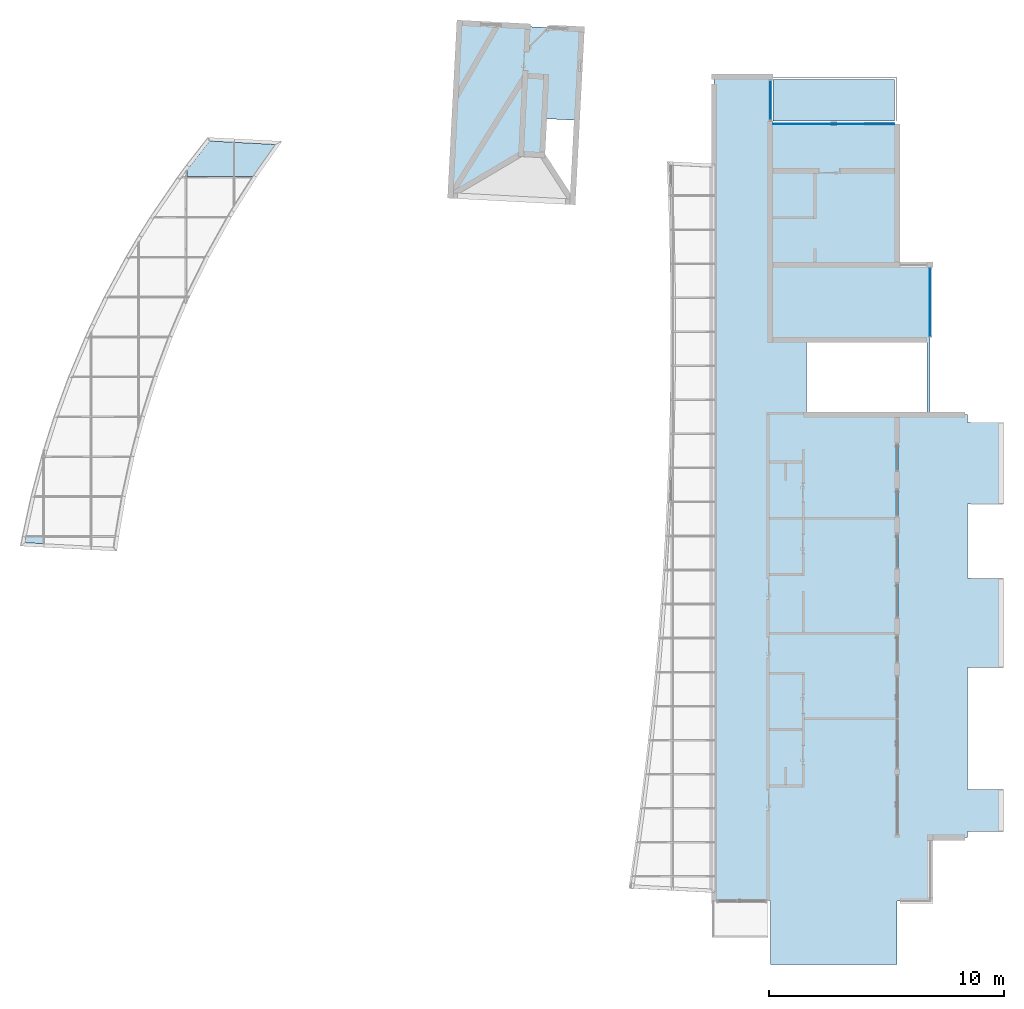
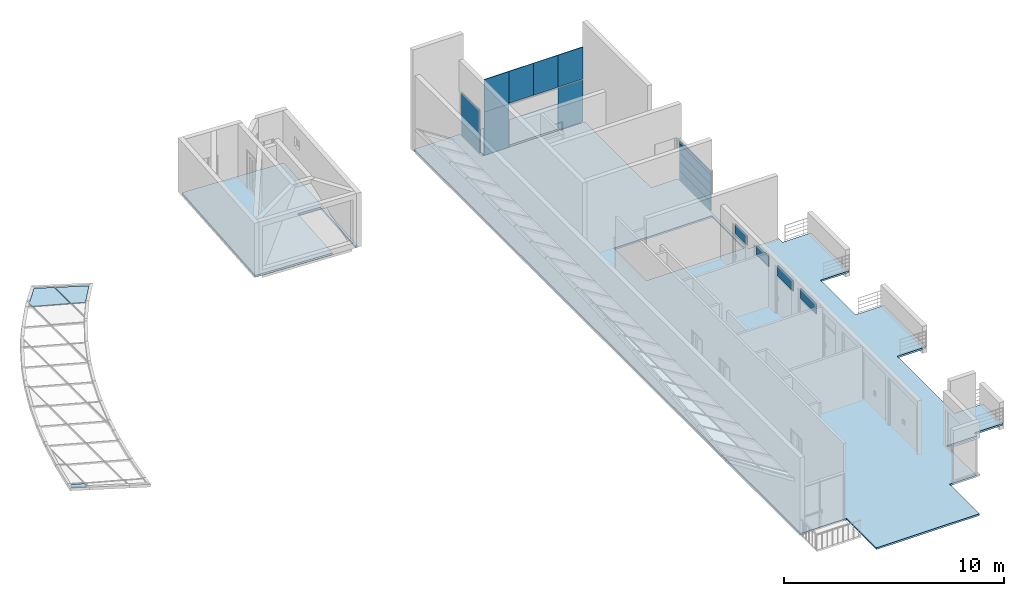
# One storey, part 16 of 33: 19 plates, 3 slabs, 1 opening, 9 elements without a shape of their own.
"""IFC2X3 building model written with IfcOpenShell, lengths in millimetres."""

from ifc_helpers import new_model, entity, si_unit, converted_unit, derived_unit, direction, frame, frame_2d, origin, origin_2d_with_axis, place, context, subcontext, project, spatial, polyline, rectangle, outline, extrude, source, transform, mapped, material, layer, layer_set, layer_usage, type_object, type_shapes, element, aggregate, save


model = new_model("IFC2X3")

# Units and contexts
model_context = context("Model", 3, precision=0.01, world=origin(), true_north=direction((6.12303176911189e-17, 1.0)))
body_context = subcontext(model_context, "Body", "Model", "MODEL_VIEW")
ifc_project = project(units=[si_unit("LENGTHUNIT", "METRE", prefix="MILLI"), si_unit("AREAUNIT", "SQUARE_METRE"), si_unit("VOLUMEUNIT", "CUBIC_METRE"), converted_unit("PLANEANGLEUNIT", "DEGREE", entity("IfcRatioMeasure", 0.0174532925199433), si_unit("PLANEANGLEUNIT", "RADIAN"), dimensions=[0, 0, 0, 0, 0, 0, 0]), si_unit("MASSUNIT", "GRAM", prefix="KILO"), derived_unit("MASSDENSITYUNIT", [(si_unit("MASSUNIT", "GRAM", prefix="KILO"), 1), (si_unit("LENGTHUNIT", "METRE"), -3)]), si_unit("TIMEUNIT", "SECOND"), si_unit("FREQUENCYUNIT", "HERTZ"), si_unit("THERMODYNAMICTEMPERATUREUNIT", "DEGREE_CELSIUS"), derived_unit("THERMALTRANSMITTANCEUNIT", [(si_unit("MASSUNIT", "GRAM", prefix="KILO"), 1), (si_unit("THERMODYNAMICTEMPERATUREUNIT", "KELVIN"), -1), (si_unit("TIMEUNIT", "SECOND"), -3)]), derived_unit("VOLUMETRICFLOWRATEUNIT", [(si_unit("LENGTHUNIT", "METRE"), 3), (si_unit("TIMEUNIT", "SECOND"), -1)]), si_unit("ELECTRICCURRENTUNIT", "AMPERE"), si_unit("ELECTRICVOLTAGEUNIT", "VOLT"), si_unit("POWERUNIT", "WATT"), si_unit("FORCEUNIT", "NEWTON", prefix="KILO"), si_unit("ILLUMINANCEUNIT", "LUX"), si_unit("LUMINOUSFLUXUNIT", "LUMEN"), si_unit("LUMINOUSINTENSITYUNIT", "CANDELA"), derived_unit("USERDEFINED", [(si_unit("MASSUNIT", "GRAM", prefix="KILO"), -1), (si_unit("LENGTHUNIT", "METRE"), -2), (si_unit("TIMEUNIT", "SECOND"), 3), (si_unit("LUMINOUSFLUXUNIT", "LUMEN"), 1)]), derived_unit("LINEARVELOCITYUNIT", [(si_unit("LENGTHUNIT", "METRE"), 1), (si_unit("TIMEUNIT", "SECOND"), -1)]), si_unit("PRESSUREUNIT", "PASCAL"), derived_unit("USERDEFINED", [(si_unit("LENGTHUNIT", "METRE"), -2), (si_unit("MASSUNIT", "GRAM", prefix="KILO"), 1), (si_unit("TIMEUNIT", "SECOND"), -2)])], contexts=[model_context])

# Site, building, storey
site_placement = place(None, origin())
site = spatial("IfcSite", under=ifc_project, at=site_placement, Name="表面", CompositionType="ELEMENT")
building_placement = place(site_placement, origin())
building = spatial("IfcBuilding", under=site, at=building_placement, CompositionType="ELEMENT")
storey_placement = place(building_placement, frame((0.0, 0.0, 6000.0)))
storey = spatial("IfcBuildingStorey", under=building, at=storey_placement, Name="3F", CompositionType="ELEMENT", Elevation=6000.00000000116)

# Curtain wall, plates
curtain_wall_type_1 = type_object("IfcCurtainWallType", Name="幕墙系统:1700 x 2100mm", PredefinedType="NOTDEFINED")
curtain_wall_1_placement = place(storey_placement, frame((0.0, 0.0, -6000.0)))
curtain_wall_1 = element("IfcCurtainWall", 1, at=curtain_wall_1_placement, inside=storey, type_object=curtain_wall_type_1, Name="幕墙系统:1700 x 2100mm", ObjectType="幕墙系统:1700 x 2100mm")
ifc_material_1 = material(Name="<Unnamed>")
ifc_layer_1 = layer(ifc_material_1, 30.0)
ifc_layer_set_1 = layer_set([ifc_layer_1], Name="幕墙系统:1450 x 2100mm")
ifc_layer_usage_1 = layer_usage(ifc_layer_set_1, "AXIS3", "POSITIVE", 0.0)
plate_type_1 = type_object("IfcPlateType", Name="玻璃", PredefinedType="CURTAIN_PANEL", material=ifc_layer_set_1)
shared_shape_1 = source(origin(), body_context, "Body", "SweptSolid", [
    extrude(outline(polyline([(-1111.20711069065, -721.859514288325), (680.986555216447, -721.859514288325), (606.898578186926, 741.692632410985), (-176.678022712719, 702.026396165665), (-1111.20711069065, -721.859514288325)])), frame((22.6521137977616, -15.0, 1146.28131827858), z_axis=(0.0, 1.0, 0.0), x_axis=(-0.050557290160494, 0.0, 0.998721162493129)), (0.0, 0.0, 1.0), 30.0),
])
type_shapes(plate_type_1, [shared_shape_1])
plate_1_placement = place(curtain_wall_1_placement, frame((-33129.0544018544, 2163.34040740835, 6712.73015009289), z_axis=(-0.965925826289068, 0.0, 0.258819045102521), x_axis=(0.0, -1.0, 0.0)))
plate_1 = element("IfcPlate", 2, at=plate_1_placement, type_object=plate_type_1, material=ifc_layer_usage_1, Name="系统嵌板:玻璃", ObjectType="玻璃", context=body_context, shape_type="MappedRepresentation", body=[
    mapped(shared_shape_1, transform((0.0, 0.0, 0.0), scale=1.0)),
])
ifc_layer_usage_2 = layer_usage(ifc_layer_set_1, "AXIS3", "POSITIVE", 0.0)
plate_type_2 = type_object("IfcPlateType", Name="玻璃", PredefinedType="CURTAIN_PANEL", material=ifc_layer_set_1)
shared_shape_2 = source(origin(), body_context, "Body", "SweptSolid", [
    extrude(outline(polyline([(-1142.52853531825, -878.224020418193), (-86.7572463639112, -878.224020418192), (759.565375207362, 283.344388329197), (855.830979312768, 193.749226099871), (830.633905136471, 691.498435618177), (-1216.74447797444, 587.855990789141), (-1142.52853531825, -878.224020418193)])), frame((112.047590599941, -15.0, 1185.46805360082), z_axis=(0.0, 1.0, 0.0), x_axis=(-0.0505572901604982, 0.0, 0.998721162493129)), (0.0, 0.0, 1.0), 30.0),
])
type_shapes(plate_type_2, [shared_shape_2])
plate_2_placement = place(curtain_wall_1_placement, frame((-34906.2630117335, 2191.29442579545, 7188.93176189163), z_axis=(-0.965925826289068, 0.0, 0.258819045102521), x_axis=(0.0, -1.0, 0.0)))
plate_2 = element("IfcPlate", 3, at=plate_2_placement, type_object=plate_type_2, material=ifc_layer_usage_2, Name="系统嵌板:玻璃", ObjectType="玻璃", context=body_context, shape_type="MappedRepresentation", body=[
    mapped(shared_shape_2, transform((0.0, 0.0, 0.0), scale=1.0)),
])
ifc_layer_usage_3 = layer_usage(ifc_layer_set_1, "AXIS3", "POSITIVE", 0.0)
plate_type_3 = type_object("IfcPlateType", Name="玻璃", PredefinedType="CURTAIN_PANEL", material=ifc_layer_set_1)
shared_shape_3 = source(origin(), body_context, "Body", "SweptSolid", [
    extrude(outline(polyline([(-394.046548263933, -130.161596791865), (370.710211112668, -130.161596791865), (417.382885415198, 109.62349523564), (-394.046548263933, 150.69969834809), (-394.046548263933, -130.161596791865)])), frame((-10.2690507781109, -15.0, 394.046548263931), z_axis=(0.0, 1.0, 0.0), x_axis=(0.0, 0.0, 1.0)), (0.0, 0.0, 1.0), 30.0),
])
type_shapes(plate_type_3, [shared_shape_3])
plate_3_placement = place(curtain_wall_1_placement, frame((-43020.0399525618, -14059.8033344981, 9363.0117407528), z_axis=(-0.965925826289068, 0.0, 0.258819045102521), x_axis=(0.0, -1.0, 0.0)))
plate_3 = element("IfcPlate", 4, at=plate_3_placement, type_object=plate_type_3, material=ifc_layer_usage_3, Name="系统嵌板:玻璃", ObjectType="玻璃", context=body_context, shape_type="MappedRepresentation", body=[
    mapped(shared_shape_3, transform((0.0, 0.0, 0.0), scale=1.0)),
])
aggregate(curtain_wall_1, [plate_1, plate_2, plate_3])

# Curtain wall, plate
curtain_wall_type_2 = type_object("IfcCurtainWallType", Name="幕墙:幕墙 2", PredefinedType="NOTDEFINED")
curtain_wall_2_placement = place(storey_placement, frame((0.0, 0.0, -6000.0)))
curtain_wall_2 = element("IfcCurtainWall", 5, at=curtain_wall_2_placement, inside=storey, type_object=curtain_wall_type_2, Name="幕墙:幕墙 2", ObjectType="幕墙:幕墙 2")
ifc_layer_usage_4 = layer_usage(ifc_layer_set_1, "AXIS3", "POSITIVE", 0.0)
plate_type_4 = type_object("IfcPlateType", Name="玻璃", PredefinedType="CURTAIN_PANEL", material=ifc_layer_set_1)
shared_shape_4 = source(origin(), body_context, "Body", "SweptSolid", [
    extrude(rectangle(XDim=30.0, YDim=1660.0, at=origin_2d_with_axis()), frame((0.0, 0.0, 0.0), z_axis=(0.0, 0.0, 1.0), x_axis=(0.0, 1.0, 0.0)), (0.0, 0.0, 1.0), 2400.0),
])
type_shapes(plate_type_4, [shared_shape_4])
plate_4_placement = place(curtain_wall_2_placement, frame((-12030.2499126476, 4683.13157334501, 6050.0), z_axis=(0.0, 0.0, 1.0), x_axis=(0.0, -1.0, 0.0)))
plate_4 = element("IfcPlate", 6, at=plate_4_placement, type_object=plate_type_4, material=ifc_layer_usage_4, Name="系统嵌板:玻璃", ObjectType="玻璃", context=body_context, shape_type="MappedRepresentation", body=[
    mapped(shared_shape_4, transform((0.0, 0.0, 0.0), scale=1.0)),
])
aggregate(curtain_wall_2, [plate_4])

# Curtain wall, plates
curtain_wall_type_3 = type_object("IfcCurtainWallType", Name="幕墙:店面", PredefinedType="NOTDEFINED")
curtain_wall_3_placement = place(storey_placement, frame((0.0, 0.0, -6000.0)))
curtain_wall_3 = element("IfcCurtainWall", 7, at=curtain_wall_3_placement, inside=storey, type_object=curtain_wall_type_3, Name="幕墙:店面", ObjectType="幕墙:店面")
ifc_layer_usage_5 = layer_usage(ifc_layer_set_1, "AXIS3", "POSITIVE", 0.0)
plate_type_5 = type_object("IfcPlateType", Name="玻璃", PredefinedType="CURTAIN_PANEL", material=ifc_layer_set_1)
shared_shape_5 = source(origin(), body_context, "Body", "SweptSolid", [
    extrude(rectangle(XDim=30.0, YDim=1290.00000000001, at=origin_2d_with_axis()), frame((0.0, 0.0, 0.0), z_axis=(0.0, 0.0, 1.0), x_axis=(0.0, 1.0, 0.0)), (0.0, 0.0, 1.0), 2400.0),
])
type_shapes(plate_type_5, [shared_shape_5])
plate_5_placement = place(curtain_wall_3_placement, frame((-11265.2499126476, 3683.13157334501, 6000.0)))
plate_5 = element("IfcPlate", 8, at=plate_5_placement, type_object=plate_type_5, material=ifc_layer_usage_5, Name="系统嵌板:玻璃", ObjectType="玻璃", context=body_context, shape_type="MappedRepresentation", body=[
    mapped(shared_shape_5, transform((0.0, 0.0, 0.0), scale=1.0)),
])
ifc_layer_usage_6 = layer_usage(ifc_layer_set_1, "AXIS3", "POSITIVE", 0.0)
plate_type_6 = type_object("IfcPlateType", Name="玻璃", PredefinedType="CURTAIN_PANEL", material=ifc_layer_set_1)
shared_shape_6 = source(origin(), body_context, "Body", "SweptSolid", [
    extrude(rectangle(XDim=30.0, YDim=1290.00000000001, at=origin_2d_with_axis()), frame((0.0, 0.0, 0.0), z_axis=(0.0, 0.0, 1.0), x_axis=(0.0, 1.0, 0.0)), (0.0, 0.0, 1.0), 2325.0),
])
type_shapes(plate_type_6, [shared_shape_6])
plate_6_placement = place(curtain_wall_3_placement, frame((-7395.24991264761, 3683.131573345, 6050.0)))
plate_6 = element("IfcPlate", 9, at=plate_6_placement, type_object=plate_type_6, material=ifc_layer_usage_6, Name="系统嵌板:玻璃", ObjectType="玻璃", context=body_context, shape_type="MappedRepresentation", body=[
    mapped(shared_shape_6, transform((0.0, 0.0, 0.0), scale=1.0)),
])
ifc_layer_usage_7 = layer_usage(ifc_layer_set_1, "AXIS3", "POSITIVE", 0.0)
plate_type_7 = type_object("IfcPlateType", Name="玻璃", PredefinedType="CURTAIN_PANEL", material=ifc_layer_set_1)
shared_shape_7 = source(origin(), body_context, "Body", "SweptSolid", [
    extrude(rectangle(XDim=30.0, YDim=1290.00000000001, at=origin_2d_with_axis()), frame((0.0, 0.0, 0.0), z_axis=(0.0, 0.0, 1.0), x_axis=(0.0, 1.0, 0.0)), (0.0, 0.0, 1.0), 1800.0),
])
type_shapes(plate_type_7, [shared_shape_7])
plate_7_placement = place(curtain_wall_3_placement, frame((-11265.2499126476, 3683.13157334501, 8400.0)))
plate_7 = element("IfcPlate", 10, at=plate_7_placement, type_object=plate_type_7, material=ifc_layer_usage_7, Name="系统嵌板:玻璃", ObjectType="玻璃", context=body_context, shape_type="MappedRepresentation", body=[
    mapped(shared_shape_7, transform((0.0, 0.0, 0.0), scale=1.0)),
])
ifc_layer_usage_8 = layer_usage(ifc_layer_set_1, "AXIS3", "POSITIVE", 0.0)
plate_type_8 = type_object("IfcPlateType", Name="玻璃", PredefinedType="CURTAIN_PANEL", material=ifc_layer_set_1)
shared_shape_8 = source(origin(), body_context, "Body", "SweptSolid", [
    extrude(rectangle(XDim=30.0, YDim=1290.00000000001, at=origin_2d_with_axis()), frame((0.0, 0.0, 0.0), z_axis=(0.0, 0.0, 1.0), x_axis=(0.0, 1.0, 0.0)), (0.0, 0.0, 1.0), 1775.0),
])
type_shapes(plate_type_8, [shared_shape_8])
plate_8_placement = place(curtain_wall_3_placement, frame((-9975.24991264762, 3683.13157334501, 8425.0)))
plate_8 = element("IfcPlate", 11, at=plate_8_placement, type_object=plate_type_8, material=ifc_layer_usage_8, Name="系统嵌板:玻璃", ObjectType="玻璃", context=body_context, shape_type="MappedRepresentation", body=[
    mapped(shared_shape_8, transform((0.0, 0.0, 0.0), scale=1.0)),
])
ifc_layer_usage_9 = layer_usage(ifc_layer_set_1, "AXIS3", "POSITIVE", 0.0)
plate_9_placement = place(curtain_wall_3_placement, frame((-8685.24991264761, 3683.131573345, 8425.0)))
plate_9 = element("IfcPlate", 12, at=plate_9_placement, type_object=plate_type_8, material=ifc_layer_usage_9, Name="系统嵌板:玻璃", ObjectType="玻璃", context=body_context, shape_type="MappedRepresentation", body=[
    mapped(shared_shape_8, transform((0.0, 0.0, 0.0), scale=1.0)),
])
ifc_layer_usage_10 = layer_usage(ifc_layer_set_1, "AXIS3", "POSITIVE", 0.0)
plate_10_placement = place(curtain_wall_3_placement, frame((-7395.24991264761, 3683.131573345, 8425.0)))
plate_10 = element("IfcPlate", 13, at=plate_10_placement, type_object=plate_type_8, material=ifc_layer_usage_10, Name="系统嵌板:玻璃", ObjectType="玻璃", context=body_context, shape_type="MappedRepresentation", body=[
    mapped(shared_shape_8, transform((0.0, 0.0, 0.0), scale=1.0)),
])
aggregate(curtain_wall_3, [plate_5, plate_6, plate_7, plate_8, plate_9, plate_10])

curtain_wall_type_4 = type_object("IfcCurtainWallType", Name="幕墙:幕墙 1", PredefinedType="NOTDEFINED")
curtain_wall_4_placement = place(storey_placement, frame((0.0, 0.0, -6000.0)))
curtain_wall_4 = element("IfcCurtainWall", 14, at=curtain_wall_4_placement, inside=storey, type_object=curtain_wall_type_4, Name="幕墙:幕墙 1", ObjectType="幕墙:幕墙 1")
ifc_layer_usage_11 = layer_usage(ifc_layer_set_1, "AXIS3", "POSITIVE", 0.0)
plate_type_9 = type_object("IfcPlateType", Name="玻璃", PredefinedType="CURTAIN_PANEL", material=ifc_layer_set_1)
shared_shape_9 = source(origin(), body_context, "Body", "SweptSolid", [
    extrude(rectangle(XDim=30.0, YDim=2860.0, at=origin_2d_with_axis()), frame((0.0, 0.0, 0.0), z_axis=(0.0, 0.0, 1.0), x_axis=(0.0, 1.0, 0.0)), (0.0, 0.0, 1.0), 500.000000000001),
])
type_shapes(plate_type_9, [shared_shape_9])
plate_11_placement = place(curtain_wall_4_placement, frame((-5230.24991264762, -3916.868426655, 6050.0), z_axis=(0.0, 0.0, 1.0), x_axis=(0.0, -1.0, 0.0)))
plate_11 = element("IfcPlate", 15, at=plate_11_placement, type_object=plate_type_9, material=ifc_layer_usage_11, Name="系统嵌板:玻璃", ObjectType="玻璃", context=body_context, shape_type="MappedRepresentation", body=[
    mapped(shared_shape_9, transform((0.0, 0.0, 0.0), scale=1.0)),
])
ifc_layer_usage_12 = layer_usage(ifc_layer_set_1, "AXIS3", "POSITIVE", 0.0)
plate_12_placement = place(curtain_wall_4_placement, frame((-5230.24991264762, -3916.868426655, 6550.0), z_axis=(0.0, 0.0, 1.0), x_axis=(0.0, -1.0, 0.0)))
plate_12 = element("IfcPlate", 16, at=plate_12_placement, type_object=plate_type_9, material=ifc_layer_usage_12, Name="系统嵌板:玻璃", ObjectType="玻璃", context=body_context, shape_type="MappedRepresentation", body=[
    mapped(shared_shape_9, transform((0.0, 0.0, 0.0), scale=1.0)),
])
ifc_layer_usage_13 = layer_usage(ifc_layer_set_1, "AXIS3", "POSITIVE", 0.0)
plate_13_placement = place(curtain_wall_4_placement, frame((-5230.24991264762, -3916.868426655, 7050.0), z_axis=(0.0, 0.0, 1.0), x_axis=(0.0, -1.0, 0.0)))
plate_13 = element("IfcPlate", 17, at=plate_13_placement, type_object=plate_type_9, material=ifc_layer_usage_13, Name="系统嵌板:玻璃", ObjectType="玻璃", context=body_context, shape_type="MappedRepresentation", body=[
    mapped(shared_shape_9, transform((0.0, 0.0, 0.0), scale=1.0)),
])
ifc_layer_usage_14 = layer_usage(ifc_layer_set_1, "AXIS3", "POSITIVE", 0.0)
plate_14_placement = place(curtain_wall_4_placement, frame((-5230.24991264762, -3916.868426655, 7550.0), z_axis=(0.0, 0.0, 1.0), x_axis=(0.0, -1.0, 0.0)))
plate_14 = element("IfcPlate", 18, at=plate_14_placement, type_object=plate_type_9, material=ifc_layer_usage_14, Name="系统嵌板:玻璃", ObjectType="玻璃", context=body_context, shape_type="MappedRepresentation", body=[
    mapped(shared_shape_9, transform((0.0, 0.0, 0.0), scale=1.0)),
])
ifc_layer_usage_15 = layer_usage(ifc_layer_set_1, "AXIS3", "POSITIVE", 0.0)
plate_type_10 = type_object("IfcPlateType", Name="玻璃", PredefinedType="CURTAIN_PANEL", material=ifc_layer_set_1)
shared_shape_10 = source(origin(), body_context, "Body", "SweptSolid", [
    extrude(rectangle(XDim=30.0, YDim=2860.0, at=origin_2d_with_axis()), frame((0.0, 0.0, 0.0), z_axis=(0.0, 0.0, 1.0), x_axis=(0.0, 1.0, 0.0)), (0.0, 0.0, 1.0), 200.0),
])
type_shapes(plate_type_10, [shared_shape_10])
plate_15_placement = place(curtain_wall_4_placement, frame((-5230.24991264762, -3916.868426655, 8050.0), z_axis=(0.0, 0.0, 1.0), x_axis=(0.0, -1.0, 0.0)))
plate_15 = element("IfcPlate", 19, at=plate_15_placement, type_object=plate_type_10, material=ifc_layer_usage_15, Name="系统嵌板:玻璃", ObjectType="玻璃", context=body_context, shape_type="MappedRepresentation", body=[
    mapped(shared_shape_10, transform((0.0, 0.0, 0.0), scale=1.0)),
])
aggregate(curtain_wall_4, [plate_11, plate_12, plate_13, plate_14, plate_15])

# Curtain wall, plate
curtain_wall_type_5 = type_object("IfcCurtainWallType", Name="幕墙:幕墙 4", PredefinedType="NOTDEFINED")
curtain_wall_5_placement = place(storey_placement, frame((0.0, 0.0, -6000.0)))
curtain_wall_5 = element("IfcCurtainWall", 20, at=curtain_wall_5_placement, inside=storey, type_object=curtain_wall_type_5, Name="幕墙:幕墙 4", ObjectType="幕墙:幕墙 4")
ifc_layer_usage_16 = layer_usage(ifc_layer_set_1, "AXIS3", "POSITIVE", 0.0)
plate_type_11 = type_object("IfcPlateType", Name="玻璃", PredefinedType="CURTAIN_PANEL", material=ifc_layer_set_1)
shared_shape_11 = source(origin(), body_context, "Body", "SweptSolid", [
    extrude(rectangle(XDim=30.0, YDim=1100.0, at=origin_2d_with_axis()), frame((0.0, 0.0, 0.0), z_axis=(0.0, 0.0, 1.0), x_axis=(0.0, 1.0, 0.0)), (0.0, 0.0, 1.0), 550.0),
])
type_shapes(plate_type_11, [shared_shape_11])
plate_16_placement = place(curtain_wall_5_placement, frame((-6630.24991264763, -12456.868426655, 8100.0), z_axis=(0.0, 0.0, 1.0), x_axis=(0.0, 1.0, 0.0)))
plate_16 = element("IfcPlate", 21, at=plate_16_placement, type_object=plate_type_11, material=ifc_layer_usage_16, Name="系统嵌板:玻璃", ObjectType="玻璃", context=body_context, shape_type="MappedRepresentation", body=[
    mapped(shared_shape_11, transform((0.0, 0.0, 0.0), scale=1.0)),
])
aggregate(curtain_wall_5, [plate_16])

curtain_wall_6_placement = place(storey_placement, frame((0.0, 0.0, -6000.0)))
curtain_wall_6 = element("IfcCurtainWall", 22, at=curtain_wall_6_placement, inside=storey, type_object=curtain_wall_type_5, Name="幕墙:幕墙 4", ObjectType="幕墙:幕墙 4")
ifc_layer_usage_17 = layer_usage(ifc_layer_set_1, "AXIS3", "POSITIVE", 0.0)
plate_17_placement = place(curtain_wall_6_placement, frame((-6630.24991264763, -10516.868426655, 8100.0), z_axis=(0.0, 0.0, 1.0), x_axis=(0.0, 1.0, 0.0)))
plate_17 = element("IfcPlate", 23, at=plate_17_placement, type_object=plate_type_11, material=ifc_layer_usage_17, Name="系统嵌板:玻璃", ObjectType="玻璃", context=body_context, shape_type="MappedRepresentation", body=[
    mapped(shared_shape_11, transform((0.0, 0.0, 0.0), scale=1.0)),
])
aggregate(curtain_wall_6, [plate_17])

curtain_wall_7_placement = place(storey_placement, frame((0.0, 0.0, -6000.0)))
curtain_wall_7 = element("IfcCurtainWall", 24, at=curtain_wall_7_placement, inside=storey, type_object=curtain_wall_type_5, Name="幕墙:幕墙 4", ObjectType="幕墙:幕墙 4")
ifc_layer_usage_18 = layer_usage(ifc_layer_set_1, "AXIS3", "POSITIVE", 0.0)
plate_type_12 = type_object("IfcPlateType", Name="玻璃", PredefinedType="CURTAIN_PANEL", material=ifc_layer_set_1)
shared_shape_12 = source(origin(), body_context, "Body", "SweptSolid", [
    extrude(rectangle(XDim=30.0, YDim=1400.0, at=origin_2d_with_axis()), frame((0.0, 0.0, 0.0), z_axis=(0.0, 0.0, 1.0), x_axis=(0.0, 1.0, 0.0)), (0.0, 0.0, 1.0), 550.0),
])
type_shapes(plate_type_12, [shared_shape_12])
plate_18_placement = place(curtain_wall_7_placement, frame((-6630.24991264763, -14516.868426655, 8100.0), z_axis=(0.0, 0.0, 1.0), x_axis=(0.0, -1.0, 0.0)))
plate_18 = element("IfcPlate", 25, at=plate_18_placement, type_object=plate_type_12, material=ifc_layer_usage_18, Name="系统嵌板:玻璃", ObjectType="玻璃", context=body_context, shape_type="MappedRepresentation", body=[
    mapped(shared_shape_12, transform((0.0, 0.0, 0.0), scale=1.0)),
])
aggregate(curtain_wall_7, [plate_18])

curtain_wall_8_placement = place(storey_placement, frame((0.0, 0.0, -6000.0)))
curtain_wall_8 = element("IfcCurtainWall", 26, at=curtain_wall_8_placement, inside=storey, type_object=curtain_wall_type_5, Name="幕墙:幕墙 4", ObjectType="幕墙:幕墙 4")
ifc_layer_usage_19 = layer_usage(ifc_layer_set_1, "AXIS3", "POSITIVE", 0.0)
plate_19_placement = place(curtain_wall_8_placement, frame((-6630.24991264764, -16616.868426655, 8100.0), z_axis=(0.0, 0.0, 1.0), x_axis=(0.0, -1.0, 0.0)))
plate_19 = element("IfcPlate", 27, at=plate_19_placement, type_object=plate_type_12, material=ifc_layer_usage_19, Name="系统嵌板:玻璃", ObjectType="玻璃", context=body_context, shape_type="MappedRepresentation", body=[
    mapped(shared_shape_12, transform((0.0, 0.0, 0.0), scale=1.0)),
])
aggregate(curtain_wall_8, [plate_19])

# Slab
ifc_material_2 = material(Name="默认楼板")
ifc_layer_2 = layer(ifc_material_2, 100.0)
ifc_layer_set_2 = layer_set([ifc_layer_2], Name="楼板:常规 - 100mm")
ifc_layer_usage_20 = layer_usage(ifc_layer_set_2, "AXIS3", "POSITIVE", 0.0)
slab_1_placement = place(storey_placement, origin())
element("IfcSlab", 28, at=slab_1_placement, inside=storey, material=ifc_layer_usage_20, Name="楼板:常规 - 100mm", ObjectType="楼板:常规 - 100mm", PredefinedType="FLOOR", context=body_context, shape_type="SweptSolid", body=[
    extrude(outline(polyline([(-4650.0, -1652.5), (2710.0, -1652.5), (2710.0, -1532.5), (-770.0, -1532.50000000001), (-770.0, -372.499999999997), (2710.0, -372.5), (2710.0, 3557.50000000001), (-4650.0, 3557.50000000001), (-4650.0, -1652.5)])), frame((-21964.5694385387, 3151.60168391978, 0.0), z_axis=(0.0, 0.0, -1.0), x_axis=(-0.0523359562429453, -0.998629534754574, 0.0)), (0.0, 0.0, 1.0), 100.0),
])

# Slab, opening
ifc_layer_usage_21 = layer_usage(ifc_layer_set_2, "AXIS3", "POSITIVE", 0.0)
slab_2_placement = place(storey_placement, frame((-14430.2499126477, -32116.868426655, -100.0)))
slab_2 = element("IfcSlab", 29, at=slab_2_placement, inside=storey, material=ifc_layer_usage_21, Name="楼板:常规 - 100mm", ObjectType="楼板:常规 - 100mm", PredefinedType="FLOOR", context=body_context, shape_type="SweptSolid", body=[
    extrude(outline(polyline([(3750.0, 18900.0), (3750.0, 16900.0), (-1650.0, 16900.0), (-1650.0, 10900.0), (-3050.0, 10900.0), (-3050.0, 4509.02251367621), (-4650.0, 4509.02251367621), (-4650.0, 4169.02251367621), (-6150.0, 4169.0225136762), (-6150.0, 709.022513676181), (-4650.0, 709.022513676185), (-4650.0, -2448.87731490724), (-6150.0, -2448.87731490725), (-6150.0, -6248.87731490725), (-4650.0, -6248.87731490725), (-4650.0, -11448.8773149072), (-6150.0, -11448.8773149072), (-6150.0, -13248.8773149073), (-4650.0, -13248.8773149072), (-4650.0, -13500.0), (-3050.0, -13500.0), (-3050.0, -16200.0), (-1650.0, -16200.0), (-1650.0, -18900.0), (3750.0, -18900.0), (3750.0, -16200.0), (6150.0, -16200.0), (6150.0, 18900.0), (3750.0, 18900.0)])), frame((6150.0, 18900.0, 100.0), z_axis=(0.0, 0.0, -1.0), x_axis=(-1.0, 0.0, 0.0)), (0.0, 0.0, 1.0), 100.0),
])
opening_placement = place(storey_placement, frame((-14430.2499126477, -32116.868426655, -100.0)))
element("IfcOpeningElement", 30, at=opening_placement, cuts=slab_2, ObjectType="Opening", context=body_context, shape_type="SweptSolid", body=[
    extrude(rectangle(XDim=2950.97748632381, YDim=5139.99999999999, at=frame_2d((-360.0, 6104.51125683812), x_axis=(0.0, -1.0))), frame((6150.0, 18900.0, 100.0), z_axis=(0.0, 0.0, -1.0), x_axis=(-1.0, 0.0, 0.0)), (0.0, 0.0, 1.0), 100.0),
])

# Roof, slab
roof_placement = place(storey_placement, frame((-11910.2499126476, 3803.131573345, -100.0)))
roof = element("IfcRoof", 31, at=roof_placement, inside=storey, Name="基本屋顶:白屋顶", ObjectType="基本屋顶:白屋顶", ShapeType="NOTDEFINED")
ifc_material_3 = material(Name="白色涂料")
ifc_layer_3 = layer(ifc_material_3, 10.0)
ifc_material_4 = material(Name="默认屋顶")
ifc_layer_4 = layer(ifc_material_4, 80.0)
ifc_layer_5 = layer(ifc_material_3, 10.0)
ifc_layer_set_3 = layer_set([ifc_layer_3, ifc_layer_4, ifc_layer_5], Name="基本屋顶:白屋顶")
slab_3_placement = place(roof_placement, origin())
slab_3 = element("IfcSlab", 32, at=slab_3_placement, material=ifc_layer_set_3, Name="基本屋顶:白屋顶", ObjectType="基本屋顶:白屋顶", PredefinedType="ROOF", context=body_context, shape_type="SweptSolid", body=[
    extrude(rectangle(XDim=5160.0, YDim=1760.00000000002, at=frame_2d((0.0, 2.8421709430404e-13), x_axis=(1.0, 0.0))), frame((2580.0, 880.0, 0.0)), (0.0, 0.0, 1.0), 100.0),
])
aggregate(roof, [slab_3])

save(model, "model.ifc")
